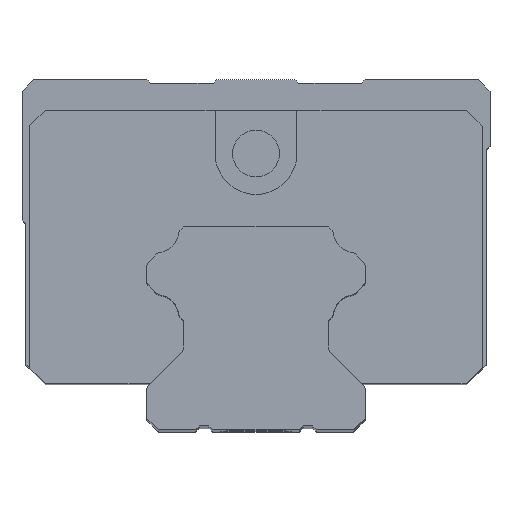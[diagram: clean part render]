
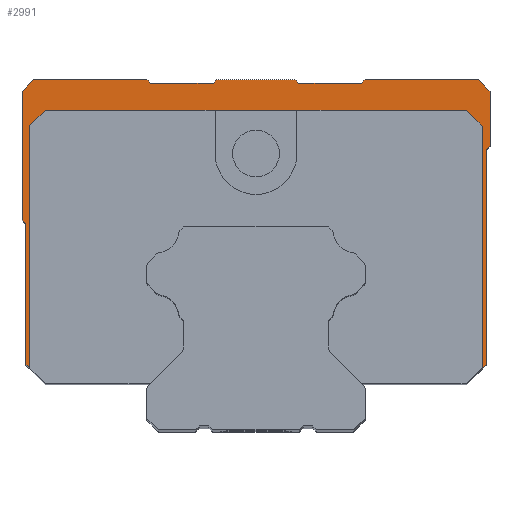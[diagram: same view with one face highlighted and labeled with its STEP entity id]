
A CAD part, top view. The second image highlights one B-rep face of the part: STEP entity #2991.
In plain terms, the highlighted planar face has unit normal (0, 0, 1).
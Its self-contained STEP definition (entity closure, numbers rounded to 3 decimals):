
#719=DIRECTION('',(-0.707,-0.707,0.));
#720=VECTOR('',#719,2.777);
#721=CARTESIAN_POINT('',(-27.037,15.039,35.));
#722=LINE('',#721,#720);
#723=DIRECTION('',(0.,1.,0.));
#724=VECTOR('',#723,31.076);
#725=CARTESIAN_POINT('',(-29.,-18.,35.));
#726=LINE('',#725,#724);
#727=DIRECTION('',(-0.707,0.707,0.));
#728=VECTOR('',#727,0.707);
#729=CARTESIAN_POINT('',(-29.,-18.,35.));
#730=LINE('',#729,#728);
#731=DIRECTION('',(0.,1.,0.));
#732=VECTOR('',#731,18.);
#733=CARTESIAN_POINT('',(-29.5,-17.5,35.));
#734=LINE('',#733,#732);
#735=DIRECTION('',(-0.707,0.707,0.));
#736=VECTOR('',#735,0.707);
#737=CARTESIAN_POINT('',(-29.5,0.5,35.));
#738=LINE('',#737,#736);
#739=DIRECTION('',(0.,1.,0.));
#740=VECTOR('',#739,16.5);
#741=CARTESIAN_POINT('',(-30.,1.,35.));
#742=LINE('',#741,#740);
#743=DIRECTION('',(0.707,0.707,0.));
#744=VECTOR('',#743,2.121);
#745=CARTESIAN_POINT('',(-30.,17.5,35.));
#746=LINE('',#745,#744);
#747=DIRECTION('',(1.,0.,0.));
#748=VECTOR('',#747,14.5);
#749=CARTESIAN_POINT('',(-28.5,19.,35.));
#750=LINE('',#749,#748);
#751=DIRECTION('',(0.707,-0.707,0.));
#752=VECTOR('',#751,0.707);
#753=CARTESIAN_POINT('',(-14.,19.,35.));
#754=LINE('',#753,#752);
#755=DIRECTION('',(1.,0.,0.));
#756=VECTOR('',#755,8.);
#757=CARTESIAN_POINT('',(-13.5,18.5,35.));
#758=LINE('',#757,#756);
#759=DIRECTION('',(0.707,0.707,0.));
#760=VECTOR('',#759,0.707);
#761=CARTESIAN_POINT('',(-5.5,18.5,35.));
#762=LINE('',#761,#760);
#763=DIRECTION('',(1.,0.,0.));
#764=VECTOR('',#763,10.);
#765=CARTESIAN_POINT('',(-5.,19.,35.));
#766=LINE('',#765,#764);
#767=DIRECTION('',(0.707,-0.707,0.));
#768=VECTOR('',#767,0.707);
#769=CARTESIAN_POINT('',(5.,19.,35.));
#770=LINE('',#769,#768);
#771=DIRECTION('',(1.,0.,0.));
#772=VECTOR('',#771,8.);
#773=CARTESIAN_POINT('',(5.5,18.5,35.));
#774=LINE('',#773,#772);
#775=DIRECTION('',(0.707,0.707,0.));
#776=VECTOR('',#775,0.707);
#777=CARTESIAN_POINT('',(13.5,18.5,35.));
#778=LINE('',#777,#776);
#779=DIRECTION('',(1.,0.,0.));
#780=VECTOR('',#779,14.5);
#781=CARTESIAN_POINT('',(14.,19.,35.));
#782=LINE('',#781,#780);
#783=DIRECTION('',(0.707,-0.707,0.));
#784=VECTOR('',#783,2.121);
#785=CARTESIAN_POINT('',(28.5,19.,35.));
#786=LINE('',#785,#784);
#787=DIRECTION('',(0.,-1.,0.));
#788=VECTOR('',#787,7.);
#789=CARTESIAN_POINT('',(30.,17.5,35.));
#790=LINE('',#789,#788);
#791=DIRECTION('',(-0.707,-0.707,0.));
#792=VECTOR('',#791,0.707);
#793=CARTESIAN_POINT('',(30.,10.5,35.));
#794=LINE('',#793,#792);
#795=DIRECTION('',(0.,-1.,0.));
#796=VECTOR('',#795,27.5);
#797=CARTESIAN_POINT('',(29.5,10.,35.));
#798=LINE('',#797,#796);
#799=DIRECTION('',(-0.707,-0.707,0.));
#800=VECTOR('',#799,3.536);
#801=CARTESIAN_POINT('',(29.5,-17.5,35.));
#802=LINE('',#801,#800);
#803=DIRECTION('',(-1.,0.,0.));
#804=VECTOR('',#803,0.076);
#805=CARTESIAN_POINT('',(27.,-20.,35.));
#806=LINE('',#805,#804);
#807=DIRECTION('',(0.,1.,0.));
#808=VECTOR('',#807,30.927);
#809=CARTESIAN_POINT('',(29.,-17.924,35.));
#810=LINE('',#809,#808);
#811=DIRECTION('',(-1.,0.,0.));
#812=VECTOR('',#811,54.);
#813=CARTESIAN_POINT('',(26.963,15.039,35.));
#814=LINE('',#813,#812);
#1089=DIRECTION('',(0.707,-0.707,0.));
#1090=VECTOR('',#1089,2.88);
#1091=CARTESIAN_POINT('',(26.963,15.039,35.));
#1092=LINE('',#1091,#1090);
#1123=DIRECTION('',(-0.707,-0.707,0.));
#1124=VECTOR('',#1123,2.936);
#1125=CARTESIAN_POINT('',(29.,-17.924,35.));
#1126=LINE('',#1125,#1124);
#1425=CARTESIAN_POINT('',(-29.5,-17.5,35.));
#1426=VERTEX_POINT('',#1425);
#1503=CARTESIAN_POINT('',(26.924,-20.,35.));
#1504=VERTEX_POINT('',#1503);
#1505=CARTESIAN_POINT('',(27.,-20.,35.));
#1506=VERTEX_POINT('',#1505);
#1507=CARTESIAN_POINT('',(26.963,15.039,35.));
#1508=CARTESIAN_POINT('',(-27.037,15.039,35.));
#1509=VERTEX_POINT('',#1507);
#1510=VERTEX_POINT('',#1508);
#1511=CARTESIAN_POINT('',(-29.5,0.5,35.));
#1512=VERTEX_POINT('',#1511);
#1513=CARTESIAN_POINT('',(-30.,1.,35.));
#1514=VERTEX_POINT('',#1513);
#1515=CARTESIAN_POINT('',(-30.,17.5,35.));
#1516=VERTEX_POINT('',#1515);
#1517=CARTESIAN_POINT('',(-28.5,19.,35.));
#1518=VERTEX_POINT('',#1517);
#1519=CARTESIAN_POINT('',(-14.,19.,35.));
#1520=VERTEX_POINT('',#1519);
#1521=CARTESIAN_POINT('',(-13.5,18.5,35.));
#1522=VERTEX_POINT('',#1521);
#1523=CARTESIAN_POINT('',(-5.5,18.5,35.));
#1524=VERTEX_POINT('',#1523);
#1525=CARTESIAN_POINT('',(-5.,19.,35.));
#1526=VERTEX_POINT('',#1525);
#1527=CARTESIAN_POINT('',(5.,19.,35.));
#1528=VERTEX_POINT('',#1527);
#1529=CARTESIAN_POINT('',(5.5,18.5,35.));
#1530=VERTEX_POINT('',#1529);
#1531=CARTESIAN_POINT('',(13.5,18.5,35.));
#1532=VERTEX_POINT('',#1531);
#1533=CARTESIAN_POINT('',(14.,19.,35.));
#1534=VERTEX_POINT('',#1533);
#1535=CARTESIAN_POINT('',(28.5,19.,35.));
#1536=VERTEX_POINT('',#1535);
#1537=CARTESIAN_POINT('',(30.,17.5,35.));
#1538=VERTEX_POINT('',#1537);
#1539=CARTESIAN_POINT('',(30.,10.5,35.));
#1540=VERTEX_POINT('',#1539);
#1541=CARTESIAN_POINT('',(29.5,10.,35.));
#1542=VERTEX_POINT('',#1541);
#1543=CARTESIAN_POINT('',(29.5,-17.5,35.));
#1544=VERTEX_POINT('',#1543);
#1606=CARTESIAN_POINT('',(-29.,-18.,35.));
#1608=VERTEX_POINT('',#1606);
#1611=CARTESIAN_POINT('',(-29.,13.076,35.));
#1612=VERTEX_POINT('',#1611);
#1621=CARTESIAN_POINT('',(29.,-17.924,35.));
#1622=CARTESIAN_POINT('',(29.,13.003,35.));
#1623=VERTEX_POINT('',#1621);
#1624=VERTEX_POINT('',#1622);
#2935=CARTESIAN_POINT('',(0.,0.,35.));
#2936=DIRECTION('',(0.,0.,1.));
#2937=DIRECTION('',(1.,0.,0.));
#2938=AXIS2_PLACEMENT_3D('',#2935,#2936,#2937);
#2939=PLANE('',#2938);
#2941=ORIENTED_EDGE('',*,*,#2940,.T.);
#2943=ORIENTED_EDGE('',*,*,#2942,.F.);
#2944=ORIENTED_EDGE('',*,*,#1854,.T.);
#2946=ORIENTED_EDGE('',*,*,#2945,.T.);
#2948=ORIENTED_EDGE('',*,*,#2947,.T.);
#2950=ORIENTED_EDGE('',*,*,#2949,.T.);
#2952=ORIENTED_EDGE('',*,*,#2951,.T.);
#2954=ORIENTED_EDGE('',*,*,#2953,.T.);
#2956=ORIENTED_EDGE('',*,*,#2955,.T.);
#2958=ORIENTED_EDGE('',*,*,#2957,.T.);
#2960=ORIENTED_EDGE('',*,*,#2959,.T.);
#2962=ORIENTED_EDGE('',*,*,#2961,.T.);
#2964=ORIENTED_EDGE('',*,*,#2963,.T.);
#2966=ORIENTED_EDGE('',*,*,#2965,.T.);
#2968=ORIENTED_EDGE('',*,*,#2967,.T.);
#2970=ORIENTED_EDGE('',*,*,#2969,.T.);
#2972=ORIENTED_EDGE('',*,*,#2971,.T.);
#2974=ORIENTED_EDGE('',*,*,#2973,.T.);
#2976=ORIENTED_EDGE('',*,*,#2975,.T.);
#2978=ORIENTED_EDGE('',*,*,#2977,.T.);
#2979=ORIENTED_EDGE('',*,*,#2701,.T.);
#2980=ORIENTED_EDGE('',*,*,#2685,.T.);
#2982=ORIENTED_EDGE('',*,*,#2981,.F.);
#2984=ORIENTED_EDGE('',*,*,#2983,.T.);
#2986=ORIENTED_EDGE('',*,*,#2985,.F.);
#2988=ORIENTED_EDGE('',*,*,#2987,.T.);
#2989=EDGE_LOOP('',(#2941,#2943,#2944,#2946,#2948,#2950,#2952,#2954,#2956,#2958,
#2960,#2962,#2964,#2966,#2968,#2970,#2972,#2974,#2976,#2978,#2979,#2980,#2982,
#2984,#2986,#2988));
#2990=FACE_OUTER_BOUND('',#2989,.F.);
#2991=ADVANCED_FACE('',(#2990),#2939,.T.);
#1854=EDGE_CURVE('',#1608,#1426,#730,.T.);
#2685=EDGE_CURVE('',#1506,#1504,#806,.T.);
#2701=EDGE_CURVE('',#1544,#1506,#802,.T.);
#2940=EDGE_CURVE('',#1510,#1612,#722,.T.);
#2942=EDGE_CURVE('',#1608,#1612,#726,.T.);
#2945=EDGE_CURVE('',#1426,#1512,#734,.T.);
#2947=EDGE_CURVE('',#1512,#1514,#738,.T.);
#2949=EDGE_CURVE('',#1514,#1516,#742,.T.);
#2951=EDGE_CURVE('',#1516,#1518,#746,.T.);
#2953=EDGE_CURVE('',#1518,#1520,#750,.T.);
#2955=EDGE_CURVE('',#1520,#1522,#754,.T.);
#2957=EDGE_CURVE('',#1522,#1524,#758,.T.);
#2959=EDGE_CURVE('',#1524,#1526,#762,.T.);
#2961=EDGE_CURVE('',#1526,#1528,#766,.T.);
#2963=EDGE_CURVE('',#1528,#1530,#770,.T.);
#2965=EDGE_CURVE('',#1530,#1532,#774,.T.);
#2967=EDGE_CURVE('',#1532,#1534,#778,.T.);
#2969=EDGE_CURVE('',#1534,#1536,#782,.T.);
#2971=EDGE_CURVE('',#1536,#1538,#786,.T.);
#2973=EDGE_CURVE('',#1538,#1540,#790,.T.);
#2975=EDGE_CURVE('',#1540,#1542,#794,.T.);
#2977=EDGE_CURVE('',#1542,#1544,#798,.T.);
#2981=EDGE_CURVE('',#1623,#1504,#1126,.T.);
#2983=EDGE_CURVE('',#1623,#1624,#810,.T.);
#2985=EDGE_CURVE('',#1509,#1624,#1092,.T.);
#2987=EDGE_CURVE('',#1509,#1510,#814,.T.);
